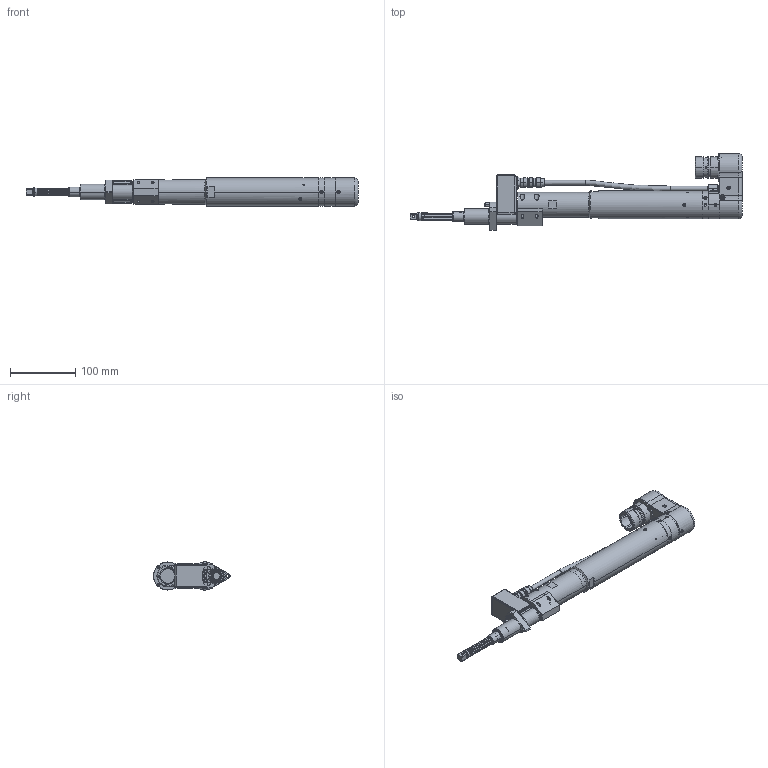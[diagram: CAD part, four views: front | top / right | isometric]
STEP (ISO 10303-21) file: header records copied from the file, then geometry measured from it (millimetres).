
FILE_DESCRIPTION((''),'2;1');
FILE_NAME('6151655120_ASM','2010-07-22T',('sdanet'),(''),'PRO/ENGINEER BY PARAMETRIC TECHNOLOGY CORPORATION, 2009300','PRO/ENGINEER BY PARAMETRIC TECHNOLOGY CORPORATION, 2009300','');
FILE_SCHEMA(('AUTOMOTIVE_DESIGN_CC2 { 1 2 10303 214 -1 1 5 2 }'));
Length unit declared in the file: millimetre
Products named in the file (41): 6155705202_AF0; 6156350160_AF0; 6159187270_AF1; 6159153310CONTRECROU_AF0; 6159153310_AF1_ASM; 6159187270_AF0_ASM; 6155705200_AF0_ASM; 6155705220_AF1; 6155705220_AF0_ASM; 6155705210_AF0; 6156161270; 6156700540_AF0; 6155652620_AF0; 6156161240; 6152250590_AF0; 6155211100_AF0; 6157850860; 6156371270; 6154751350; 6154700910; 6154751000; BE20357_ASM; 6155651152_TRUE; 6155651150_ASM; 6155960430; 6155960420; 6155961660; 6155961680; 6156110280; 6156100520; 6156190350; 6159381060; 6159381060_ASM; 6156180180; 6155960390; 6156100430; 6156100190; 6156101200; 6153942550_ASM; MANIFOLD_SOLID_BREP_63279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
Assembly tree (60 placements, depth 5):
  6151655120_ASM
    6155705200_AF0_ASM
      6155705202_AF0
      6156350160_AF0
      6159187270_AF0_ASM
        6159187270_AF1
        6159153310_AF1_ASM
          6159153310CONTRECROU_AF0
    6155705220_AF0_ASM
      6155705220_AF1
    6155705210_AF0
    6156161270  x2
    6156700540_AF0
    6155652620_AF0
    6156161240  x4
    6152250590_AF0
    6155211100_AF0
    6157850860
    6156371270
    BE20357_ASM
      6154751350
      6154700910  x2
      6154751000
    6153942550_ASM
      6155651150_ASM
        6155651152_TRUE
      6155960430
      6155960420
      6155961660
      6155961680
      6156110280  x6
      6156100520  x3
      6156190350  x3
      6159381060_ASM
        6159381060
      6156180180  x2
      6155960390
      6156100430  x2
      6156100190  x4
      6156101200  x2
    MANIFOLD_SOLID_BREP_63279
Bounding box: 508.35 x 117.55 x 43 mm (x, y, z)
Volume: 282586 mm3; surface area: 218530 mm2
Topology: 52 solids, 75 shells, 1739 faces, 4178 edges, 2602 vertices
Faces by surface type: cylinder 630, plane 627, cone 314, torus 123, extrusion 32, bspline 9, sphere 4
Entity records: 52856 total; most frequent: CARTESIAN_POINT 11257, DIRECTION 7460, ORIENTED_EDGE 6488, EDGE_CURVE 3302, AXIS2_PLACEMENT_3D 3012, PRESENTATION_STYLE_ASSIGNMENT 2486, STYLED_ITEM 2486, CURVE_STYLE 2425
